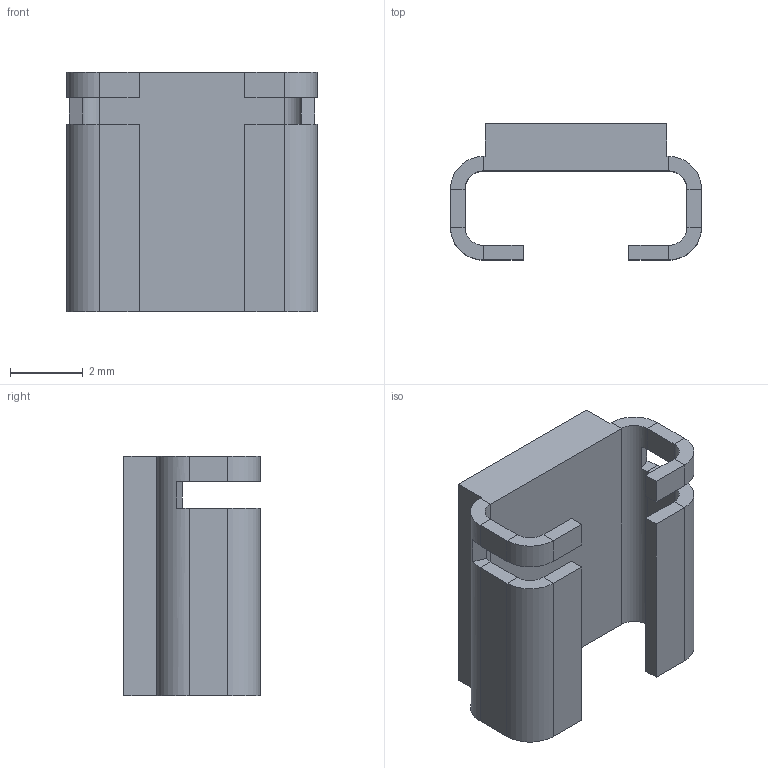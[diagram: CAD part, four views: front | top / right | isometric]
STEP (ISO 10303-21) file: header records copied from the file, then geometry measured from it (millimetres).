
FILE_DESCRIPTION (( 'STEP AP203' ), '1' );
FILE_NAME ('RSHJ2726-1.0m次-F曾磁踢.STEP', '2023-07-17T03:03:06', ( '' ), ( '' ), 'SwSTEP 2.0', 'SolidWorks 2020', '' );
FILE_SCHEMA (( 'CONFIG_CONTROL_DESIGN' ));
Length unit declared in the file: millimetre
Products named in the file (1): RSHJ2726-1.0m次-F曾磁踢
Bounding box: 6.9 x 3.75 x 6.6 mm (x, y, z)
Volume: 64 mm3; surface area: 214.6 mm2
Topology: 1 solids, 1 shells, 74 faces, 160 edges, 88 vertices
Faces by surface type: plane 62, cylinder 12
Entity records: 2005 total; most frequent: DIRECTION 342, CARTESIAN_POINT 323, ORIENTED_EDGE 320, EDGE_CURVE 160, VECTOR 128, LINE 128, AXIS2_PLACEMENT_3D 107, VERTEX_POINT 88
